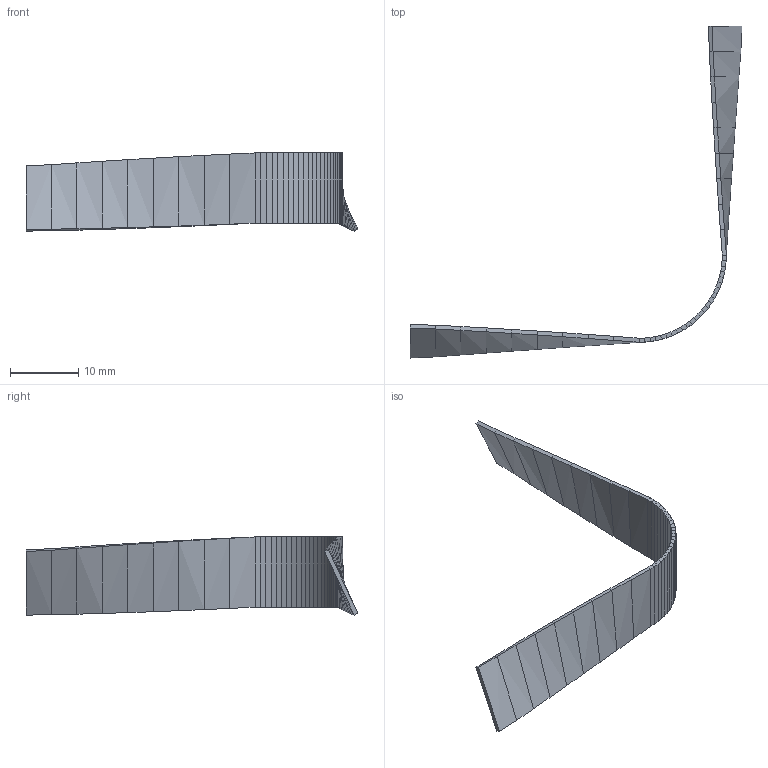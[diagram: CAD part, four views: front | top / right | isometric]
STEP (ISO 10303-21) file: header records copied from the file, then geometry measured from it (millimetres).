
FILE_DESCRIPTION(('Open CASCADE Model'),'2;1');
FILE_NAME('Open CASCADE Shape Model','2026-10-21T18:06:14',('Author'),( 'Open CASCADE'),'Open CASCADE STEP processor 8.0','build123d', 'Unknown');
FILE_SCHEMA(('AUTOMOTIVE_DESIGN { 1 0 10303 214 1 1 1 1 }'));
Length unit declared in the file: millimetre
Products named in the file (1): SOLID
Bounding box: 48.69 x 48.69 x 11.47 mm (x, y, z)
Volume: 536.4 mm3; surface area: 1906.1 mm2
Topology: 1 solids, 1 shells, 170 faces, 340 edges, 172 vertices
Faces by surface type: bspline 120, plane 50
Entity records: 8258 total; most frequent: CARTESIAN_POINT 1987, DIRECTION 858, LINE 756, VECTOR 756, ORIENTED_EDGE 680, PCURVE 680, DEFINITIONAL_REPRESENTATION 680, EDGE_CURVE 340
